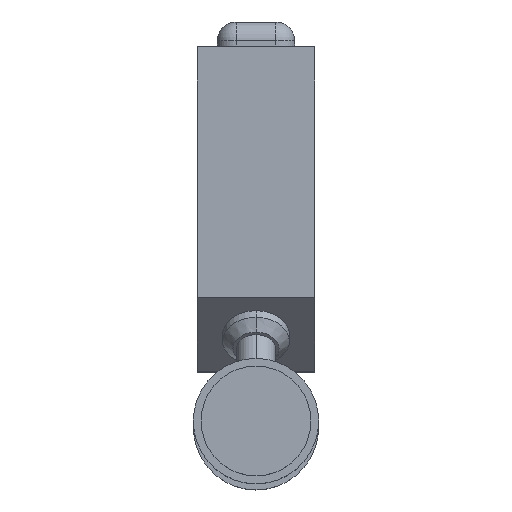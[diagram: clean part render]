
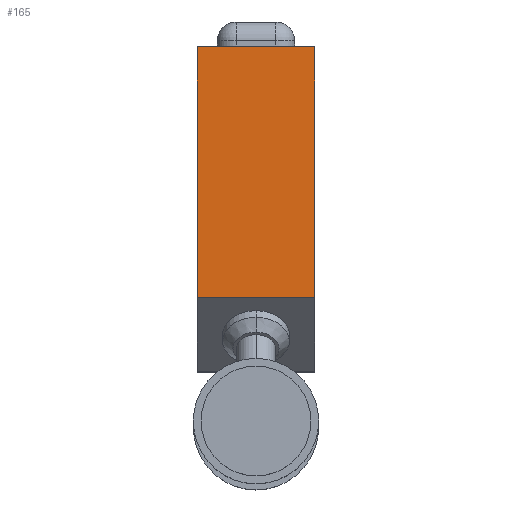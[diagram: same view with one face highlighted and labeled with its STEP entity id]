
A CAD part, top view. The second image highlights one B-rep face of the part: STEP entity #165.
In plain terms, the highlighted planar face has unit normal (0, 0, 1) as drawn and (0, 0, -1) by its records, which use the part's own axes.
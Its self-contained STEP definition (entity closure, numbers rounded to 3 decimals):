
#55 = ORIENTED_EDGE ( 'NONE', *, *, #972, .F. ) ;
#58 = ORIENTED_EDGE ( 'NONE', *, *, #870, .T. ) ;
#60 = ORIENTED_EDGE ( 'NONE', *, *, #928, .T. ) ;
#165 = ADVANCED_FACE ( 'NONE', ( #1721 ), #1720, .F. ) ;
#166 = EDGE_LOOP ( 'NONE', ( #167, #58, #60, #55 ) ) ;
#167 = ORIENTED_EDGE ( 'NONE', *, *, #860, .F. ) ;
#780 = VERTEX_POINT ( 'NONE', #2772 ) ;
#814 = VERTEX_POINT ( 'NONE', #2785 ) ;
#852 = VERTEX_POINT ( 'NONE', #2902 ) ;
#860 = EDGE_CURVE ( 'NONE', #814, #780, #2896, .T. ) ;
#870 = EDGE_CURVE ( 'NONE', #814, #881, #2877, .T. ) ;
#881 = VERTEX_POINT ( 'NONE', #2922 ) ;
#928 = EDGE_CURVE ( 'NONE', #881, #852, #2978, .T. ) ;
#972 = EDGE_CURVE ( 'NONE', #780, #852, #3086, .T. ) ;
#1716 = DIRECTION ( 'NONE',  ( 1., 0., 0. ) ) ;
#1717 = DIRECTION ( 'NONE',  ( 0., 0., 1. ) ) ;
#1718 = CARTESIAN_POINT ( 'NONE',  ( 11.2, 0., -20. ) ) ;
#1719 = AXIS2_PLACEMENT_3D ( 'NONE', #1718, #1717, #1716 ) ;
#1720 = PLANE ( 'NONE',  #1719 ) ;
#1721 = FACE_OUTER_BOUND ( 'NONE', #166, .T. ) ;
#2772 = CARTESIAN_POINT ( 'NONE',  ( 11.2, 31., -20. ) ) ;
#2785 = CARTESIAN_POINT ( 'NONE',  ( 11.2, 7., -20. ) ) ;
#2874 = DIRECTION ( 'NONE',  ( -1., 0., 0. ) ) ;
#2875 = VECTOR ( 'NONE', #2874, 1000. ) ;
#2876 = CARTESIAN_POINT ( 'NONE',  ( 11.2, 7., -20. ) ) ;
#2877 = LINE ( 'NONE', #2876, #2875 ) ;
#2893 = DIRECTION ( 'NONE',  ( 0., 1., 0. ) ) ;
#2894 = VECTOR ( 'NONE', #2893, 1000. ) ;
#2895 = CARTESIAN_POINT ( 'NONE',  ( 11.2, 0., -20. ) ) ;
#2896 = LINE ( 'NONE', #2895, #2894 ) ;
#2902 = CARTESIAN_POINT ( 'NONE',  ( 0., 31., -20. ) ) ;
#2922 = CARTESIAN_POINT ( 'NONE',  ( 0., 7., -20. ) ) ;
#2975 = DIRECTION ( 'NONE',  ( 0., 1., 0. ) ) ;
#2976 = VECTOR ( 'NONE', #2975, 1000. ) ;
#2977 = CARTESIAN_POINT ( 'NONE',  ( 0., 0., -20. ) ) ;
#2978 = LINE ( 'NONE', #2977, #2976 ) ;
#3083 = DIRECTION ( 'NONE',  ( -1., 0., 0. ) ) ;
#3084 = VECTOR ( 'NONE', #3083, 1000. ) ;
#3085 = CARTESIAN_POINT ( 'NONE',  ( 11.2, 31., -20. ) ) ;
#3086 = LINE ( 'NONE', #3085, #3084 ) ;
